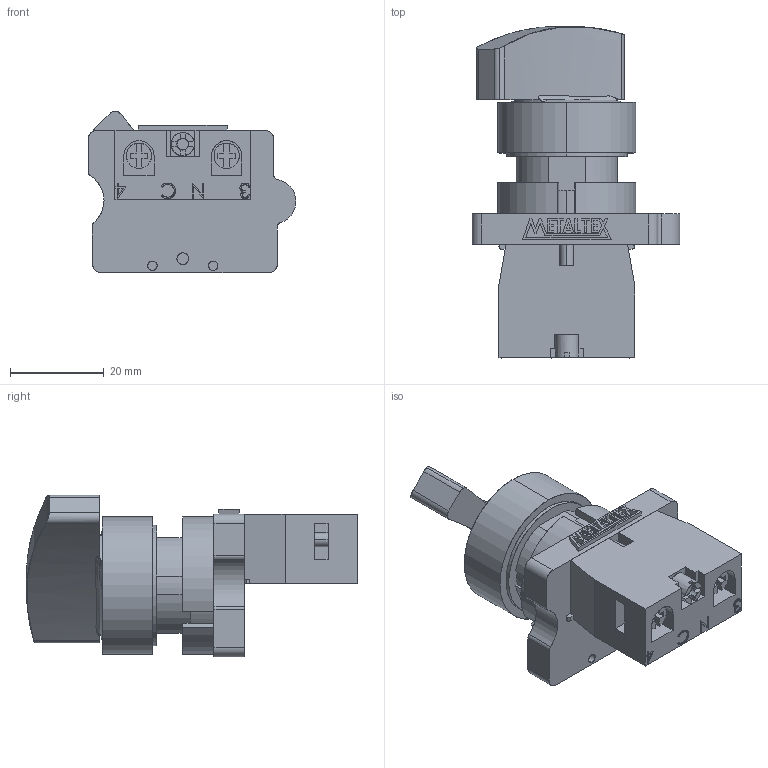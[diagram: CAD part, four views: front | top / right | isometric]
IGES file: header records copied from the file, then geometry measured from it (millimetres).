
Start section: SolidWorks IGES file using analytic representation for surfaces
Global section: file name: D:\X - Arquivos\PROEX\Empresas\P11 - METALTEX\01 - Produtos\IGES\Segunda remessa\P20SL.IGS; native system: SolidWorks 2012; preprocessor: SolidWorks 2012; author: Usuario; date: 180117.120513; units: millimetre
Bounding box: 44.44 x 71 x 34.54 mm (x, y, z)
Surface area: 13072.2 mm2 (no closed solid volume)
Topology: 0 solids, 0 shells, 381 faces, 4232 edges, 4232 vertices
Faces by surface type: bspline 300, revolution 81
